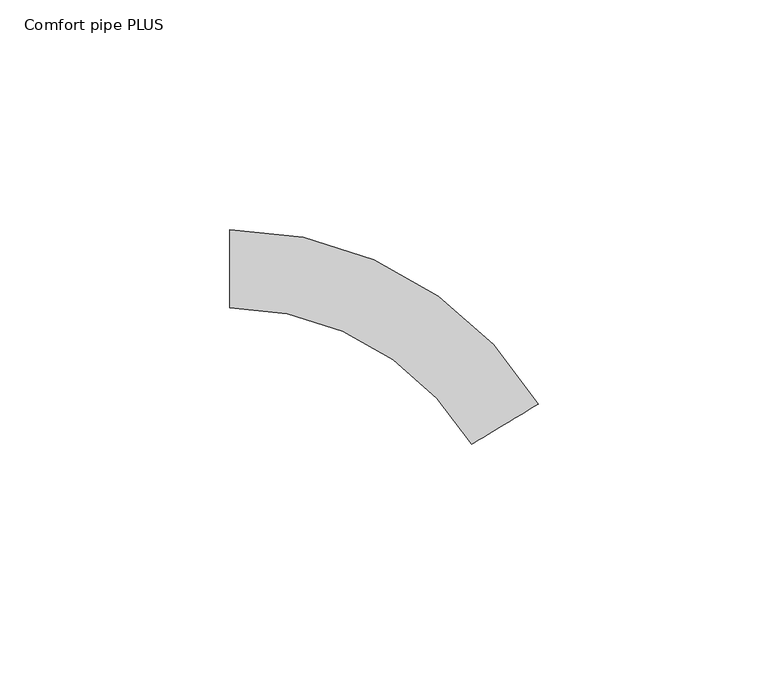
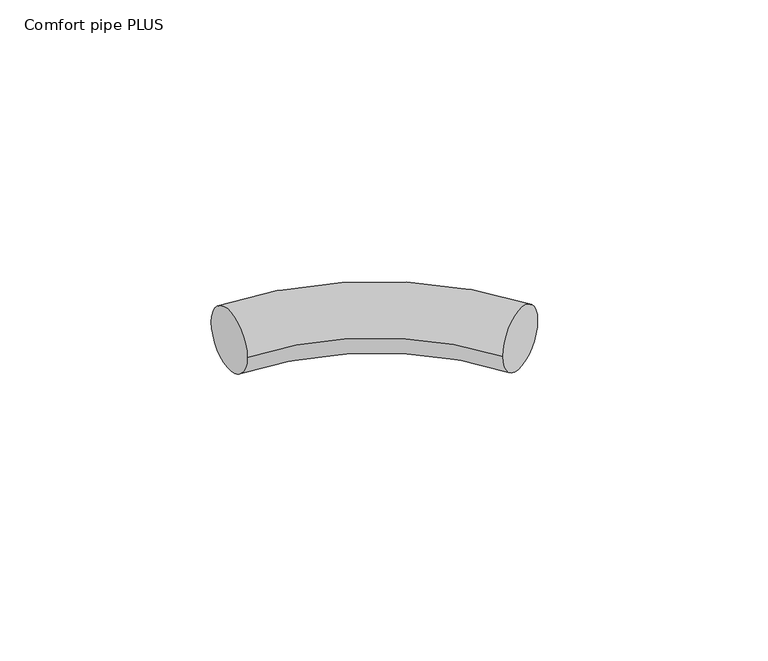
"""IFC4 building model written with IfcOpenShell, lengths in millimetres: pipe fitting geometry, 400_5-_Uponor_curved_Elbow : Comfort pipe PLUS."""

from ifc_helpers import new_model, si_unit, point, frame, origin, place, context, project, spatial, circle_curve, ellipse_curve, trimmed, source, transform, mapped, element, save
from ifc_brep_helpers import plane_surface, revolved_surface, advanced_brep


def comfort_pipe_plus_1f8f520a(model_context):
    return source(origin(), model_context, "Body", "AdvancedBrep", [
        advanced_brep(
        [(-39.5443057, 8.5, 0.0), (-39.5443057, -8.5, 0.0), (27.6909335, -29.4824408, 0.0), (13.1304359, -38.2569441, 0.0)],
        [
            (0, 1, circle_curve(frame((-39.5443057, 0.0, 0.0), z_axis=(-1.0, 0.0, 0.0), x_axis=(0.0, -1.0, 0.0)), 8.5)),
            (1, 0, circle_curve(frame((-39.5443057, 0.0, 0.0), z_axis=(-1.0, 0.0, 0.0), x_axis=(0.0, -1.0, 0.0)), 8.5)),
            (2, 3, circle_curve(frame((20.4106847, -33.8696924, 0.0), z_axis=(0.5161472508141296, -0.8564998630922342, 0.0), x_axis=(-0.8564998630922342, -0.5161472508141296, 0.0)), 8.5)),
            (3, 2, circle_curve(frame((20.4106847, -33.8696924, 0.0), z_axis=(0.5161472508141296, -0.8564998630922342, 0.0), x_axis=(-0.8564998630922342, -0.5161472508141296, 0.0)), 8.5)),
            (2, 0, circle_curve(frame((-39.5443057, -70.0, 0.0), z_axis=(0.0, 0.0, 1.0), x_axis=(0.0, 1.0, 0.0)), 78.5)),
            (1, 3, circle_curve(frame((-39.5443057, -70.0, 0.0), z_axis=(0.0, 0.0, -1.0), x_axis=(0.0, 1.0, 0.0)), 61.5)),
        ],
        [
            plane_surface(frame((-39.5443057, 0.0, 0.0), z_axis=(-1.0, 0.0, 0.0), x_axis=(0.0, 0.0, 1.0))),
            plane_surface(frame((20.4106847, -33.8696924, 0.0), z_axis=(0.5161472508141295, -0.8564998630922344, 0.0), x_axis=(0.0, 0.0, 1.0))),
            revolved_surface(trimmed(ellipse_curve(frame((-39.5443057, 0.0, 0.0), z_axis=(1.0, 0.0, 0.0), x_axis=(0.0, -1.0, 0.0)), 8.5, 8.5), [point((-39.5443057, 8.5, 0.0))], [point((-39.5443057, -8.5, 0.0))], True, "CARTESIAN"), (-39.5443057, -70.0, 0.0), (0.0, 0.0, 1.0)),
            revolved_surface(trimmed(ellipse_curve(frame((-39.5443057, 0.0, 0.0), z_axis=(1.0, 0.0, 0.0), x_axis=(0.0, -1.0, 0.0)), 8.5, 8.5), [point((-39.5443057, -8.5, 0.0))], [point((-39.5443057, 8.5, 0.0))], True, "CARTESIAN"), (-39.5443057, -70.0, 0.0), (0.0, 0.0, 1.0)),
        ],
        [
            (0, [[1, 2]]),
            (1, [[3, 4]]),
            (2, [[-3, 5, -2, 6]]),
            (3, [[-4, -6, -1, -5]]),
        ],
    ),
    ])


if __name__ == "__main__":
    model = new_model("IFC4")
    model_context = context("Model", 3, world=origin())
    ifc_project = project(units=[si_unit("LENGTHUNIT", "METRE", prefix="MILLI")], contexts=[model_context])
    site = spatial("IfcSite", under=ifc_project)
    building = spatial("IfcBuilding", under=site)
    placement = place(None, origin())
    comfort_pipe_plus_shape = comfort_pipe_plus_1f8f520a(model_context)
    element("IfcPipeFitting", 1, ObjectType="400_5-_Uponor_curved_Elbow : Comfort pipe PLUS", at=placement, inside=building, context=model_context, shape_type="MappedRepresentation", body=[
        mapped(comfort_pipe_plus_shape, transform((0.0, 0.0, 0.0), x_axis=(1.0, 0.0, 0.0), y_axis=(0.0, 1.0, 0.0), z_axis=(0.0, 0.0, 1.0))),
    ])
    save(model, "model.ifc")
